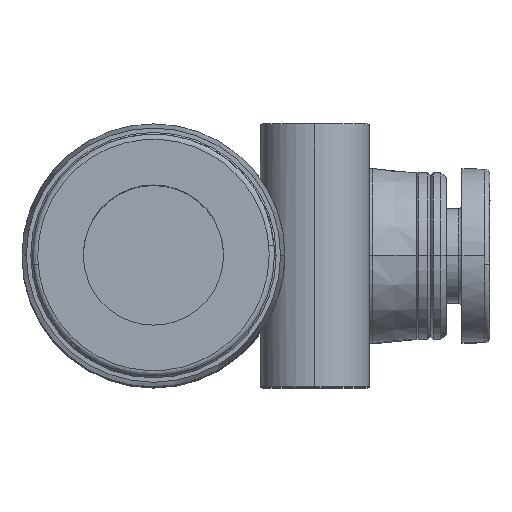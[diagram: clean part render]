
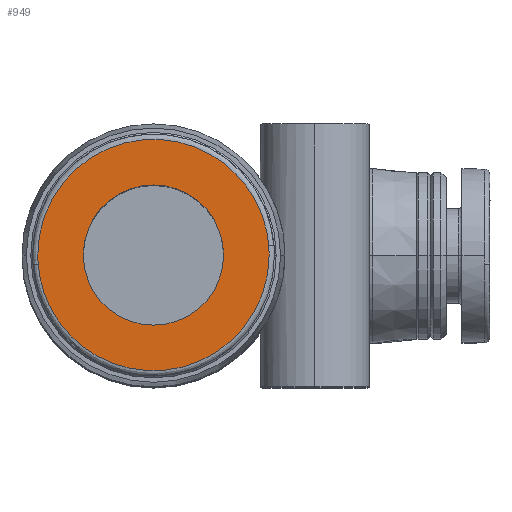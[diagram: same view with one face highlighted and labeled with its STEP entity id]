
A CAD part, top view. The second image highlights one B-rep face of the part: STEP entity #949.
In plain terms, the highlighted planar face has unit normal (0, 0, 1).
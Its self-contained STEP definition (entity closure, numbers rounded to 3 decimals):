
#184 = CARTESIAN_POINT ( 'NONE',  ( 4., 0., 31.2 ) ) ;
#225 = DIRECTION ( 'NONE',  ( 1., 0., 0. ) ) ;
#252 = CIRCLE ( 'NONE', #2089, 4. ) ;
#392 = CARTESIAN_POINT ( 'NONE',  ( -6.579, -0.53, 31.2 ) ) ;
#416 = AXIS2_PLACEMENT_3D ( 'NONE', #6942, #3630, #225 ) ;
#421 = CARTESIAN_POINT ( 'NONE',  ( -6.6, -0.177, 31.2 ) ) ;
#450 = ORIENTED_EDGE ( 'NONE', *, *, #2178, .T. ) ;
#490 = ORIENTED_EDGE ( 'NONE', *, *, #6747, .F. ) ;
#599 = DIRECTION ( 'NONE',  ( 1., 0., 0. ) ) ;
#663 = CARTESIAN_POINT ( 'NONE',  ( -7.1, 7.1, 31.2 ) ) ;
#720 = VERTEX_POINT ( 'NONE', #392 ) ;
#736 = CARTESIAN_POINT ( 'NONE',  ( -6.579, -0.53, 31.2 ) ) ;
#827 = EDGE_LOOP ( 'NONE', ( #490, #910, #4702, #5834 ) ) ;
#910 = ORIENTED_EDGE ( 'NONE', *, *, #4381, .F. ) ;
#949 = ADVANCED_FACE ( '54', ( #1140, #4316 ), #3946, .T. ) ;
#1024 = CARTESIAN_POINT ( 'NONE',  ( 6.579, 0.53, 31.2 ) ) ;
#1140 = FACE_BOUND ( 'NONE', #5998, .T. ) ;
#1566 = CARTESIAN_POINT ( 'NONE',  ( 6.593, 0.353, 31.2 ) ) ;
#1842 = CARTESIAN_POINT ( 'NONE',  ( 6.6, -12.209, 31.2 ) ) ;
#2061 = VERTEX_POINT ( 'NONE', #184 ) ;
#2089 = AXIS2_PLACEMENT_3D ( 'NONE', #2853, #6730, #3421 ) ;
#2106 = CARTESIAN_POINT ( 'NONE',  ( -6.579, -0.53, 31.2 ) ) ;
#2167 = CARTESIAN_POINT ( 'NONE',  ( 6.6, 0., 31.2 ) ) ;
#2178 = EDGE_CURVE ( 'NONE', #6141, #2061, #3001, .T. ) ;
#2195 = DIRECTION ( 'NONE',  ( 0., 0., 1. ) ) ;
#2853 = CARTESIAN_POINT ( 'NONE',  ( 0., 0., 31.2 ) ) ;
#2928 = VERTEX_POINT ( 'NONE', #5796 ) ;
#3001 = CIRCLE ( 'NONE', #416, 4. ) ;
#3007 = EDGE_CURVE ( 'NONE', #4312, #4233, #6315, .T. ) ;
#3053 = CARTESIAN_POINT ( 'NONE',  ( -6.6, 0., 31.2 ) ) ;
#3367 = CARTESIAN_POINT ( 'NONE',  ( 6.579, 0.53, 31.2 ) ) ;
#3421 = DIRECTION ( 'NONE',  ( 1., 0., 0. ) ) ;
#3630 = DIRECTION ( 'NONE',  ( 0., 0., -1. ) ) ;
#3946 = PLANE ( 'NONE',  #5915 ) ;
#4120 = CARTESIAN_POINT ( 'NONE',  ( -5.599, -12.699, 31.2 ) ) ;
#4233 = VERTEX_POINT ( 'NONE', #6857 ) ;
#4312 = VERTEX_POINT ( 'NONE', #3053 ) ;
#4316 = FACE_OUTER_BOUND ( 'NONE', #827, .T. ) ;
#4381 = EDGE_CURVE ( 'NONE', #4233, #2928, #6907, .T. ) ;
#4385 = CARTESIAN_POINT ( 'NONE',  ( -6.6, 0., 31.2 ) ) ;
#4702 = ORIENTED_EDGE ( 'NONE', *, *, #3007, .F. ) ;
#4707 = EDGE_CURVE ( 'NONE', #720, #4312, #6234, .T. ) ;
#5022 = CARTESIAN_POINT ( 'NONE',  ( -6.6, 12.209, 31.2 ) ) ;
#5523 = CARTESIAN_POINT ( 'NONE',  ( 6.6, 0.177, 31.2 ) ) ;
#5796 = CARTESIAN_POINT ( 'NONE',  ( 6.6, 0., 31.2 ) ) ;
#5802 = ORIENTED_EDGE ( 'NONE', *, *, #6588, .T. ) ;
#5829 =( BOUNDED_CURVE ( )  B_SPLINE_CURVE ( 3, ( #6300, #1842, #4120, #736 ),
 .UNSPECIFIED., .F., .F. ) 
 B_SPLINE_CURVE_WITH_KNOTS ( ( 4, 4 ),
 ( 0., 0.974 ),
 .UNSPECIFIED. ) 
 CURVE ( )  GEOMETRIC_REPRESENTATION_ITEM ( )  RATIONAL_B_SPLINE_CURVE ( ( 1., 0.36, 0.36, 1. ) ) 
 REPRESENTATION_ITEM ( '' )  );
#5834 = ORIENTED_EDGE ( 'NONE', *, *, #4707, .F. ) ;
#5915 = AXIS2_PLACEMENT_3D ( 'NONE', #663, #2195, #599 ) ;
#5998 = EDGE_LOOP ( 'NONE', ( #5802, #450 ) ) ;
#6141 = VERTEX_POINT ( 'NONE', #6763 ) ;
#6234 =( BOUNDED_CURVE ( )  B_SPLINE_CURVE ( 3, ( #2106, #7135, #421, #4385 ),
 .UNSPECIFIED., .F., .T. ) 
 B_SPLINE_CURVE_WITH_KNOTS ( ( 4, 4 ),
 ( 0.974, 1. ),
 .UNSPECIFIED. ) 
 CURVE ( )  GEOMETRIC_REPRESENTATION_ITEM ( )  RATIONAL_B_SPLINE_CURVE ( ( 1., 0.999, 0.999, 1. ) ) 
 REPRESENTATION_ITEM ( '' )  );
#6300 = CARTESIAN_POINT ( 'NONE',  ( 6.6, 0., 31.2 ) ) ;
#6315 =( BOUNDED_CURVE ( )  B_SPLINE_CURVE ( 3, ( #6677, #5022, #7221, #3367 ),
 .UNSPECIFIED., .F., .T. ) 
 B_SPLINE_CURVE_WITH_KNOTS ( ( 4, 4 ),
 ( 0., 0.974 ),
 .UNSPECIFIED. ) 
 CURVE ( )  GEOMETRIC_REPRESENTATION_ITEM ( )  RATIONAL_B_SPLINE_CURVE ( ( 1., 0.36, 0.36, 1. ) ) 
 REPRESENTATION_ITEM ( '' )  );
#6588 = EDGE_CURVE ( 'NONE', #2061, #6141, #252, .T. ) ;
#6677 = CARTESIAN_POINT ( 'NONE',  ( -6.6, 0., 31.2 ) ) ;
#6730 = DIRECTION ( 'NONE',  ( 0., 0., -1. ) ) ;
#6747 = EDGE_CURVE ( 'NONE', #2928, #720, #5829, .T. ) ;
#6763 = CARTESIAN_POINT ( 'NONE',  ( -4., 0., 31.2 ) ) ;
#6857 = CARTESIAN_POINT ( 'NONE',  ( 6.579, 0.53, 31.2 ) ) ;
#6907 =( BOUNDED_CURVE ( )  B_SPLINE_CURVE ( 3, ( #1024, #1566, #5523, #2167 ),
 .UNSPECIFIED., .F., .T. ) 
 B_SPLINE_CURVE_WITH_KNOTS ( ( 4, 4 ),
 ( 0.974, 1. ),
 .UNSPECIFIED. ) 
 CURVE ( )  GEOMETRIC_REPRESENTATION_ITEM ( )  RATIONAL_B_SPLINE_CURVE ( ( 1., 0.999, 0.999, 1. ) ) 
 REPRESENTATION_ITEM ( '' )  );
#6942 = CARTESIAN_POINT ( 'NONE',  ( 0., 0., 31.2 ) ) ;
#7135 = CARTESIAN_POINT ( 'NONE',  ( -6.593, -0.353, 31.2 ) ) ;
#7221 = CARTESIAN_POINT ( 'NONE',  ( 5.599, 12.699, 31.2 ) ) ;
